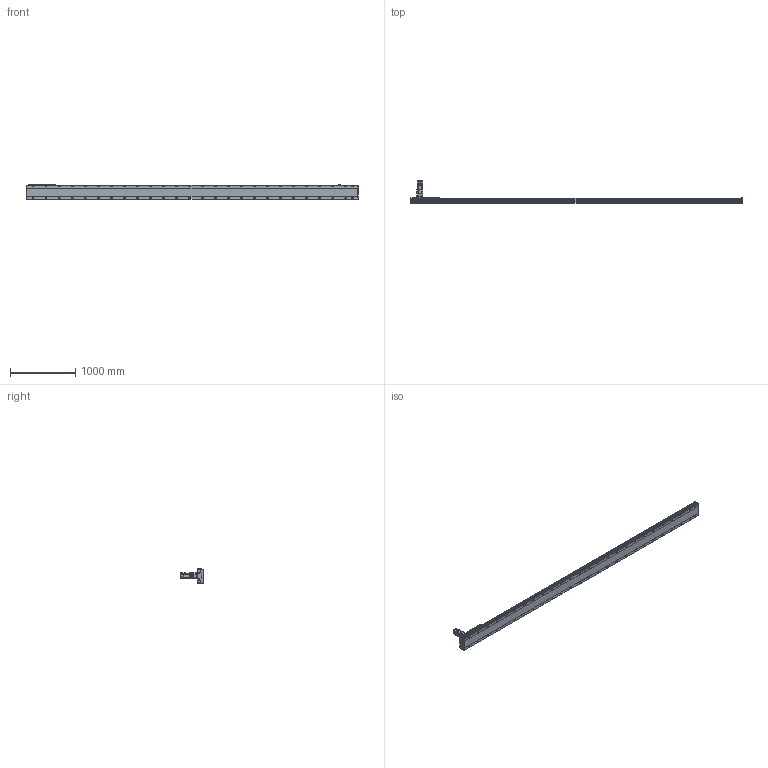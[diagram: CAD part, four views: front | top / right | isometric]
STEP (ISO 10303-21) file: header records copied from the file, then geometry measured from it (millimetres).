
FILE_DESCRIPTION(/* description */ ('STEP AP214'),/* implementation_level */ '2;1');
FILE_NAME(/* name */ 'SHS22A-L13-S4600-BC-T75-C1-N(0)',/* time_stamp */ '2022-06-15T02:28:57+02:00',/* author */ ('License CC BY-ND 4.0'),/* organization */ ('CADENAS'),/* preprocessor_version */ 'ST-DEVELOPER v18.102',/* originating_system */ 'PARTsolutions',/* authorisation */ ' ');
FILE_SCHEMA (('AUTOMOTIVE_DESIGN {1 0 10303 214 3 1 1}'));
Length unit declared in the file: millimetre
Products named in the file (7): SHS22A-L13-S4600-BC-T75-C1-N(0); PSC140-sensor; SHS22A-S4600_body2; T75-p1; SHS22A-S4600_body3; SHS22A-S4600_slider; SHS22A-L13-S4600-BC-T75-C1(0)_body
Assembly tree (13 placements, depth 2):
  SHS22A-L13-S4600-BC-T75-C1-N(0)
    PSC140-sensor  x3
    SHS22A-S4600_body2  x6
    T75-p1
    SHS22A-S4600_body3
    SHS22A-S4600_slider
    SHS22A-L13-S4600-BC-T75-C1(0)_body
Bounding box: 5094 x 350.8 x 238.4 mm (x, y, z)
Volume: 53928914.8 mm3; surface area: 5489110.6 mm2
Topology: 13 solids, 13 shells, 2013 faces, 5143 edges, 3364 vertices
Faces by surface type: plane 1384, cylinder 503, cone 117, torus 9
Full cylindrical faces by diameter (mm): 2.8 x3, 4.2 x2, 4.6 x3, 4.917 x4, 5 x4, 5.6 x24, 6 x31, 6.6 x24, 6.647 x8, 6.8 x9, 7.75 x6, 8 x3, 8.376 x52, 8.5 x52, 10 x4, 11 x4, 12 x24, 14 x52, 22 x1, 24.1 x1, 28 x1, 28.2 x1, 28.8 x1, 48.542 x1, 68 x1, 70 x1, 78 x1, 80 x2
Entity records: 34714 total; most frequent: CARTESIAN_POINT 6329, DIRECTION 5891, ORIENTED_EDGE 5196, EDGE_CURVE 2598, AXIS2_PLACEMENT_3D 2148, FACE_BOUND 1916, EDGE_LOOP 1915, VERTEX_POINT 1902
